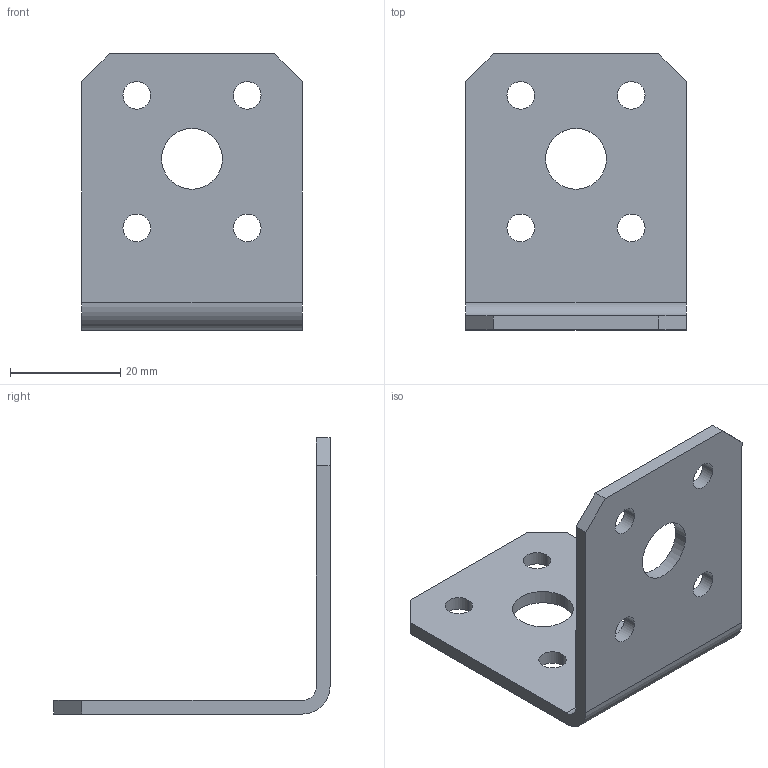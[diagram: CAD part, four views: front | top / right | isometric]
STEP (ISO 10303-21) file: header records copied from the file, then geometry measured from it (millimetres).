
FILE_DESCRIPTION (( 'STEP AP203' ), '1' );
FILE_NAME ('543.STEP', '2020-10-20T10:48:10', ( '' ), ( '' ), 'SwSTEP 2.0', 'SolidWorks 2013', '' );
FILE_SCHEMA (( 'CONFIG_CONTROL_DESIGN' ));
Length unit declared in the file: millimetre
Products named in the file (1): 543
Bounding box: 40 x 50 x 50 mm (x, y, z)
Volume: 8596.2 mm3; surface area: 8014.1 mm2
Topology: 1 solids, 1 shells, 34 faces, 96 edges, 64 vertices
Faces by surface type: cylinder 22, plane 12
Entity records: 1241 total; most frequent: DIRECTION 210, CARTESIAN_POINT 195, ORIENTED_EDGE 192, EDGE_CURVE 96, AXIS2_PLACEMENT_3D 79, VERTEX_POINT 64, EDGE_LOOP 54, LINE 52
